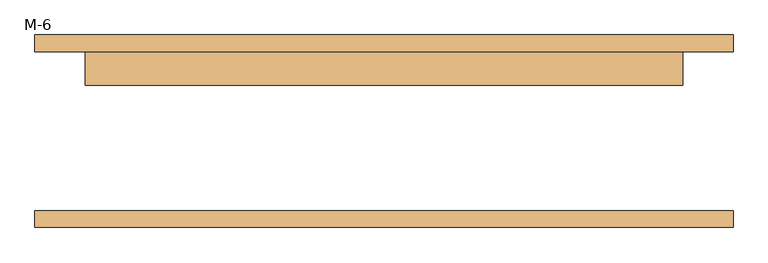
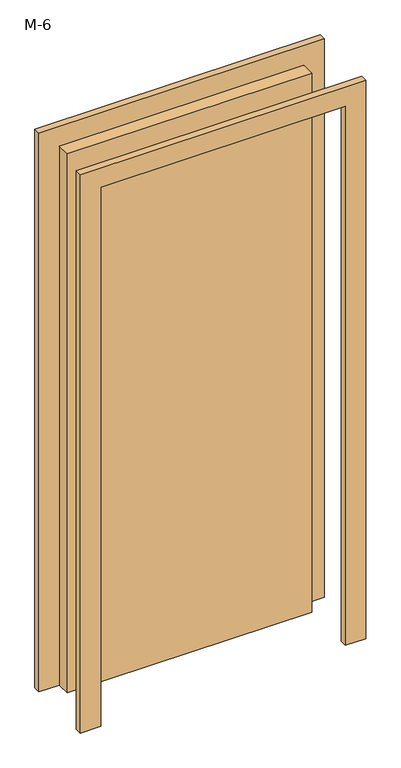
"""IFC4 building model written with IfcOpenShell, lengths in millimetres: door geometry, 单扇 - 与墙齐 : M-6."""

from ifc_helpers import new_model, si_unit, frame, origin, origin_with_axes, place, context, project, spatial, polyline, outline, extrude, source, transform, mapped, element, save


def m_6_4988a537(model_context):
    return source(origin(), model_context, "Body", "SweptSolid", [
        extrude(outline(polyline([(2176.0, -526.0), (0.0, -526.0), (0.0, -450.0), (2100.0, -450.0), (2100.0, 450.0), (0.0, 450.0), (0.0, 526.0), (2176.0, 526.0), (2176.0, -526.0)])), frame((0.0, 120.0, 0.0), z_axis=(0.0, 1.0, 0.0), x_axis=(0.0, 0.0, 1.0)), (0.0, 0.0, 1.0), 25.0),
        extrude(outline(polyline([(2176.0, 526.0), (2176.0, -526.0), (0.0, -526.0), (0.0, -450.0), (2100.0, -450.0), (2100.0, 450.0), (0.0, 450.0), (0.0, 526.0), (2176.0, 526.0)])), frame((0.0, -145.0, 0.0), z_axis=(0.0, 1.0, 0.0), x_axis=(0.0, 0.0, 1.0)), (0.0, 0.0, 1.0), 25.0),
        extrude(outline(polyline([(450.0, 69.0), (-450.0, 69.0), (-450.0, 120.0), (450.0, 120.0), (450.0, 69.0)])), origin_with_axes(), (0.0, 0.0, 1.0), 2100.0),
    ])


if __name__ == "__main__":
    model = new_model("IFC4")
    model_context = context("Model", 3, world=origin())
    ifc_project = project(units=[si_unit("LENGTHUNIT", "METRE", prefix="MILLI")], contexts=[model_context])
    site = spatial("IfcSite", under=ifc_project)
    building = spatial("IfcBuilding", under=site)
    placement = place(None, origin())
    m_6_shape = m_6_4988a537(model_context)
    element("IfcDoor", 1, ObjectType="单扇 - 与墙齐 : M-6", at=placement, inside=building, context=model_context, shape_type="MappedRepresentation", body=[
        mapped(m_6_shape, transform((0.0, 0.0, 0.0), x_axis=(1.0, 0.0, 0.0), y_axis=(0.0, 1.0, 0.0), z_axis=(0.0, 0.0, 1.0))),
    ])
    save(model, "model.ifc")
